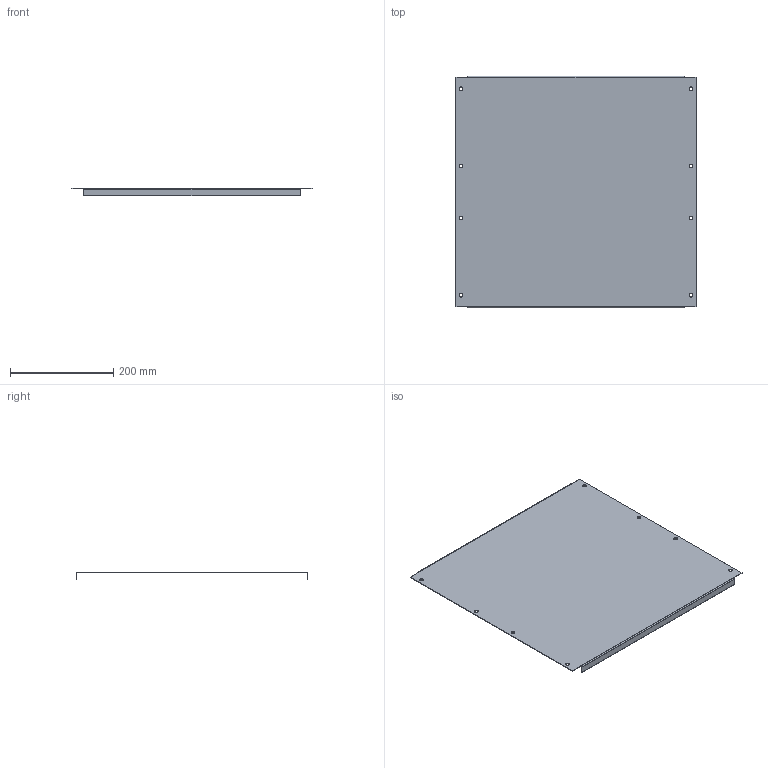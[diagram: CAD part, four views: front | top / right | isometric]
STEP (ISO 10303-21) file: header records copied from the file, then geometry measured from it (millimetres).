
FILE_DESCRIPTION (( 'STEP AP203' ), '1' );
FILE_NAME ('MB 45.50 Ïàíåëü ìîäóëüíàÿ.STEP', '2012-11-21T07:16:56', ( 'system' ), ( '' ), 'SwSTEP 2.0', 'SolidWorks 2012', '' );
FILE_SCHEMA (( 'CONFIG_CONTROL_DESIGN' ));
Length unit declared in the file: millimetre
Products named in the file (1): MB 45.50 Ïàíåëü ìîäóëüíàÿ
Bounding box: 465 x 449 x 15 mm (x, y, z)
Volume: 263008 mm3; surface area: 440813.9 mm2
Topology: 1 solids, 1 shells, 42 faces, 104 edges, 64 vertices
Faces by surface type: plane 22, cylinder 20
Entity records: 1349 total; most frequent: DIRECTION 230, CARTESIAN_POINT 211, ORIENTED_EDGE 208, EDGE_CURVE 104, AXIS2_PLACEMENT_3D 83, VECTOR 64, VERTEX_POINT 64, LINE 64
